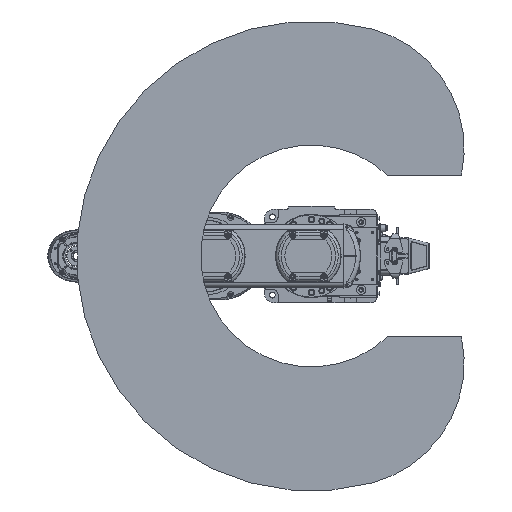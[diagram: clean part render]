
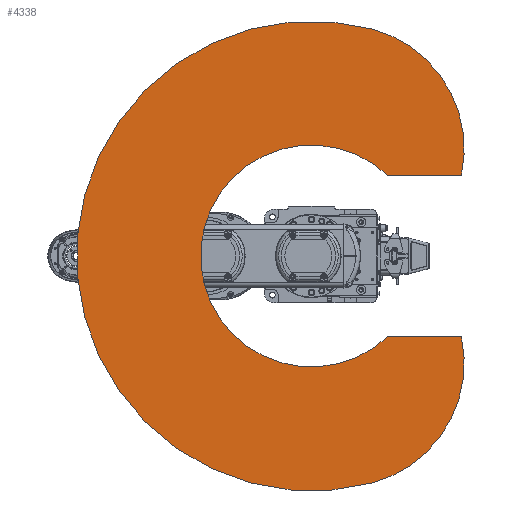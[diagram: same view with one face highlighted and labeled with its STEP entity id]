
A CAD part, front view. The second image highlights one B-rep face of the part: STEP entity #4338.
In plain terms, the highlighted planar face has unit normal (0, -1, 0).
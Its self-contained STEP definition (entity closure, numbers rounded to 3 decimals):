
#4338 = ADVANCED_FACE( '', ( #10793 ), #10794, .F. );
#10793 = FACE_OUTER_BOUND( '', #20260, .T. );
#10794 = PLANE( '', #20261 );
#20260 = EDGE_LOOP( '', ( #33387, #33388, #33389, #33390, #33391, #33392 ) );
#20261 = AXIS2_PLACEMENT_3D( '', #33393, #33394, #33395 );
#33387 = ORIENTED_EDGE( '', *, *, #53081, .T. );
#33388 = ORIENTED_EDGE( '', *, *, #51269, .F. );
#33389 = ORIENTED_EDGE( '', *, *, #50563, .F. );
#33390 = ORIENTED_EDGE( '', *, *, #53311, .F. );
#33391 = ORIENTED_EDGE( '', *, *, #53312, .T. );
#33392 = ORIENTED_EDGE( '', *, *, #50827, .T. );
#33393 = CARTESIAN_POINT( '', ( 102.614, 0., 27.495 ) );
#33394 = DIRECTION( '', ( 0., 1., 0. ) );
#33395 = DIRECTION( '', ( 0., 0., 1. ) );
#50563 = EDGE_CURVE( '', #59445, #59446, #59447, .T. );
#50827 = EDGE_CURVE( '', #59897, #59895, #59898, .T. );
#51269 = EDGE_CURVE( '', #59446, #60663, #60666, .T. );
#53081 = EDGE_CURVE( '', #59895, #60663, #63663, .T. );
#53311 = EDGE_CURVE( '', #64028, #59445, #64029, .T. );
#53312 = EDGE_CURVE( '', #64028, #59897, #64030, .T. );
#59445 = VERTEX_POINT( '', #72820 );
#59446 = VERTEX_POINT( '', #72821 );
#59447 = CIRCLE( '', #72822, 450. );
#59895 = VERTEX_POINT( '', #73569 );
#59897 = VERTEX_POINT( '', #73572 );
#59898 = CIRCLE( '', #73573, 212.47 );
#60663 = VERTEX_POINT( '', #74933 );
#60666 = CIRCLE( '', #74937, 237.533 );
#63663 = LINE( '', #80047, #80048 );
#64028 = VERTEX_POINT( '', #80579 );
#64029 = CIRCLE( '', #80580, 237.533 );
#64030 = LINE( '', #80581, #80582 );
#72820 = CARTESIAN_POINT( '', ( 434.667, 0., 116.469 ) );
#72821 = CARTESIAN_POINT( '', ( -434.667, 0., 116.469 ) );
#72822 = AXIS2_PLACEMENT_3D( '', #93421, #93422, #93423 );
#73569 = CARTESIAN_POINT( '', ( -155., 0., 145.322 ) );
#73572 = CARTESIAN_POINT( '', ( 155., 0., 145.322 ) );
#73573 = AXIS2_PLACEMENT_3D( '', #93735, #93736, #93737 );
#74933 = CARTESIAN_POINT( '', ( -155., 0., 287.152 ) );
#74937 = AXIS2_PLACEMENT_3D( '', #94239, #94240, #94241 );
#80047 = CARTESIAN_POINT( '', ( -155., 0., 0. ) );
#80048 = VECTOR( '', #96512, 1000. );
#80579 = CARTESIAN_POINT( '', ( 155., 0., 287.152 ) );
#80580 = AXIS2_PLACEMENT_3D( '', #96805, #96806, #96807 );
#80581 = CARTESIAN_POINT( '', ( 155., 0., 305. ) );
#80582 = VECTOR( '', #96808, 1000. );
#93421 = CARTESIAN_POINT( '', ( 0., 0., 0. ) );
#93422 = DIRECTION( '', ( 0., 1., 0. ) );
#93423 = DIRECTION( '', ( 1., 0., 0. ) );
#93735 = CARTESIAN_POINT( '', ( 0., 0., 0. ) );
#93736 = DIRECTION( '', ( 0., 1., 0. ) );
#93737 = DIRECTION( '', ( 1., 0., 0. ) );
#94239 = CARTESIAN_POINT( '', ( -205.228, 0., 54.991 ) );
#94240 = DIRECTION( '', ( 0., 1., 0. ) );
#94241 = DIRECTION( '', ( 1., 0., 0. ) );
#96512 = DIRECTION( '', ( 0., 0., 1. ) );
#96805 = CARTESIAN_POINT( '', ( 205.228, 0., 54.991 ) );
#96806 = DIRECTION( '', ( 0., 1., 0. ) );
#96807 = DIRECTION( '', ( 1., 0., 0. ) );
#96808 = DIRECTION( '', ( 0., 0., -1. ) );
